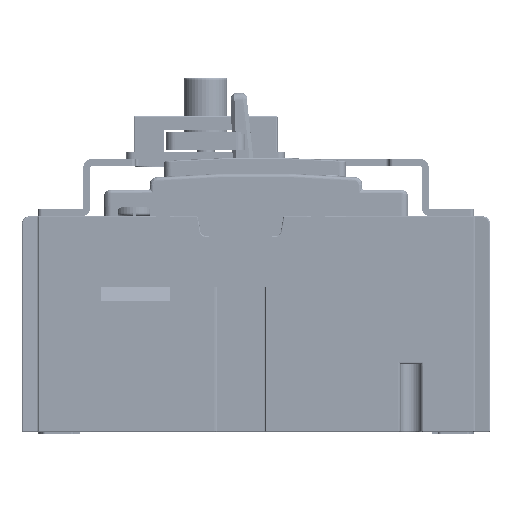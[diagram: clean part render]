
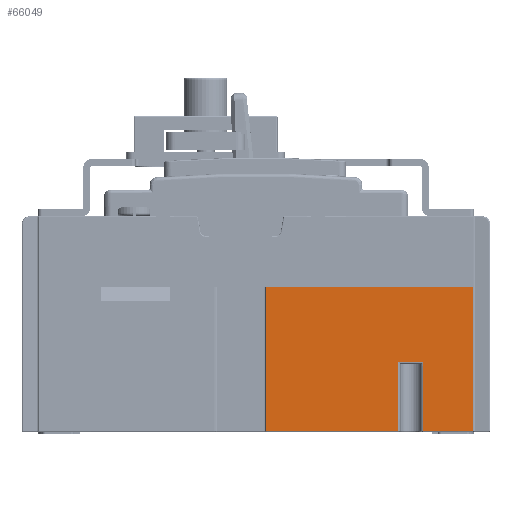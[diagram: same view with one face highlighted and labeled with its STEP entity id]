
A CAD part, front view. The second image highlights one B-rep face of the part: STEP entity #66049.
In plain terms, the highlighted planar face has unit normal (0, -1, 0).
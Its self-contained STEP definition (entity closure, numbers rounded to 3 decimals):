
#6601=LINE('',#322162,#30258);
#6603=LINE('',#322168,#30260);
#6605=LINE('',#322174,#30262);
#6699=LINE('',#322439,#30356);
#6702=LINE('',#322453,#30359);
#6800=LINE('',#323017,#30457);
#6801=LINE('',#323018,#30458);
#6802=LINE('',#323019,#30459);
#30258=VECTOR('',#255946,1.);
#30260=VECTOR('',#255952,1.);
#30262=VECTOR('',#255958,1.);
#30356=VECTOR('',#256160,1.);
#30359=VECTOR('',#256171,1.);
#30457=VECTOR('',#256425,1.);
#30458=VECTOR('',#256426,1.);
#30459=VECTOR('',#256427,1.);
#51674=FACE_OUTER_BOUND('',#90046,.T.);
#66049=ADVANCED_FACE('',(#51674),#77623,.T.);
#77623=PLANE('',#229690);
#90046=EDGE_LOOP('',(#119953,#119954,#119955,#119956,#119957,#119958,#119959,
#119960));
#119953=ORIENTED_EDGE('',*,*,#198315,.T.);
#119954=ORIENTED_EDGE('',*,*,#198621,.T.);
#119955=ORIENTED_EDGE('',*,*,#198433,.T.);
#119956=ORIENTED_EDGE('',*,*,#198622,.T.);
#119957=ORIENTED_EDGE('',*,*,#198439,.T.);
#119958=ORIENTED_EDGE('',*,*,#198623,.T.);
#119959=ORIENTED_EDGE('',*,*,#198312,.T.);
#119960=ORIENTED_EDGE('',*,*,#198309,.T.);
#175052=VERTEX_POINT('',#322159);
#175053=VERTEX_POINT('',#322161);
#175054=VERTEX_POINT('',#322165);
#175057=VERTEX_POINT('',#322173);
#175135=VERTEX_POINT('',#322440);
#175136=VERTEX_POINT('',#322441);
#175141=VERTEX_POINT('',#322452);
#175142=VERTEX_POINT('',#322454);
#198309=EDGE_CURVE('',#175052,#175053,#6601,.T.);
#198312=EDGE_CURVE('',#175054,#175052,#6603,.T.);
#198315=EDGE_CURVE('',#175053,#175057,#6605,.T.);
#198433=EDGE_CURVE('',#175135,#175136,#6699,.T.);
#198439=EDGE_CURVE('',#175142,#175141,#6702,.T.);
#198621=EDGE_CURVE('',#175057,#175135,#6800,.T.);
#198622=EDGE_CURVE('',#175136,#175142,#6801,.T.);
#198623=EDGE_CURVE('',#175141,#175054,#6802,.T.);
#229690=AXIS2_PLACEMENT_3D('',#323020,#256428,#256429);
#255946=DIRECTION('',(1.,0.,0.));
#255952=DIRECTION('',(0.,0.,1.));
#255958=DIRECTION('',(0.,0.,-1.));
#256160=DIRECTION('',(0.,0.,1.));
#256171=DIRECTION('',(0.,0.,-1.));
#256425=DIRECTION('',(1.,0.,0.));
#256426=DIRECTION('',(-1.,0.,0.));
#256427=DIRECTION('',(1.,0.,0.));
#256428=DIRECTION('',(0.,-1.,0.));
#256429=DIRECTION('',(0.,0.,-1.));
#322159=CARTESIAN_POINT('',(39.401,-167.5,-21.));
#322161=CARTESIAN_POINT('',(46.401,-167.5,-21.));
#322162=CARTESIAN_POINT('',(-61.149,-167.5,-21.));
#322165=CARTESIAN_POINT('',(39.401,-167.5,-40.));
#322168=CARTESIAN_POINT('',(39.401,-167.5,-21.5));
#322173=CARTESIAN_POINT('',(46.401,-167.5,-40.));
#322174=CARTESIAN_POINT('',(46.401,-167.5,-40.5));
#322439=CARTESIAN_POINT('',(60.101,-167.5,0.));
#322440=CARTESIAN_POINT('',(60.101,-167.5,-40.));
#322441=CARTESIAN_POINT('',(60.101,-167.5,0.));
#322452=CARTESIAN_POINT('',(2.801,-167.5,-40.));
#322453=CARTESIAN_POINT('',(2.801,-167.5,0.));
#322454=CARTESIAN_POINT('',(2.801,-167.5,0.));
#323017=CARTESIAN_POINT('',(-61.149,-167.5,-40.));
#323018=CARTESIAN_POINT('',(-61.149,-167.5,0.));
#323019=CARTESIAN_POINT('',(-61.149,-167.5,-40.));
#323020=CARTESIAN_POINT('',(-61.149,-167.5,0.));
